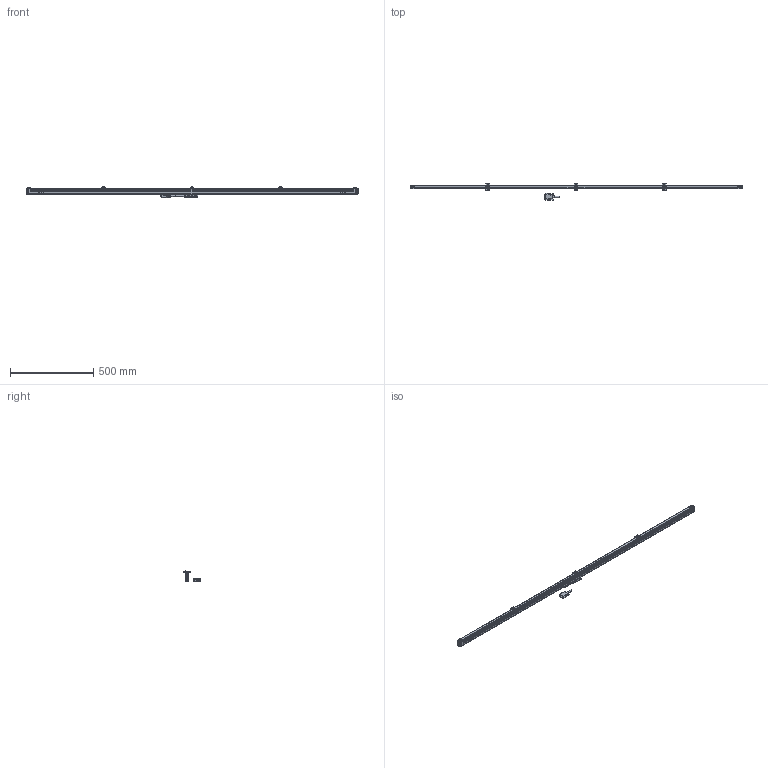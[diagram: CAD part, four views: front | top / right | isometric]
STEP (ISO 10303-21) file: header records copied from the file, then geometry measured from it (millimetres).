
FILE_DESCRIPTION(('Creo Elements/Direct Modeling STEP Export'),'2;1');
FILE_NAME('AT715-1800_営業送付.stp','2018-12-20T15:34:53',(''),(''),'Creo Elements/Direct Modeling STEP processor for AP214 (Solid Model)','Creo Elements/Direct Modeling 18.1B 29-Sep-2012 (C) Parametric Technology GmbH','');
FILE_SCHEMA(('AUTOMOTIVE_DESIGN { 1 0 10303 214 1 1 1 1 }'));
Length unit declared in the file: millimetre
Products named in the file (6): Scale_1800_3; Scale_1800_1; Connector; DetectorHead; Scale_1800_2; AT715-1800
Assembly tree (5 placements, depth 2):
  AT715-1800
    Scale_1800_2
    DetectorHead
    Connector
    Scale_1800_1
    Scale_1800_3
Bounding box: 1998 x 99 x 68.35 mm (x, y, z)
Volume: 4292101.9 mm3; surface area: 891022.7 mm2
Topology: 5 solids, 10 shells, 2025 faces, 5281 edges, 3317 vertices
Faces by surface type: plane 1255, cylinder 540, cone 100, extrusion 96, torus 18, sphere 12, bspline 4
Entity records: 61899 total; most frequent: CARTESIAN_POINT 13006, ORIENTED_EDGE 10538, DIRECTION 9279, EDGE_CURVE 5269, VECTOR 3435, LINE 3339, VERTEX_POINT 3317, AXIS2_PLACEMENT_3D 2922
